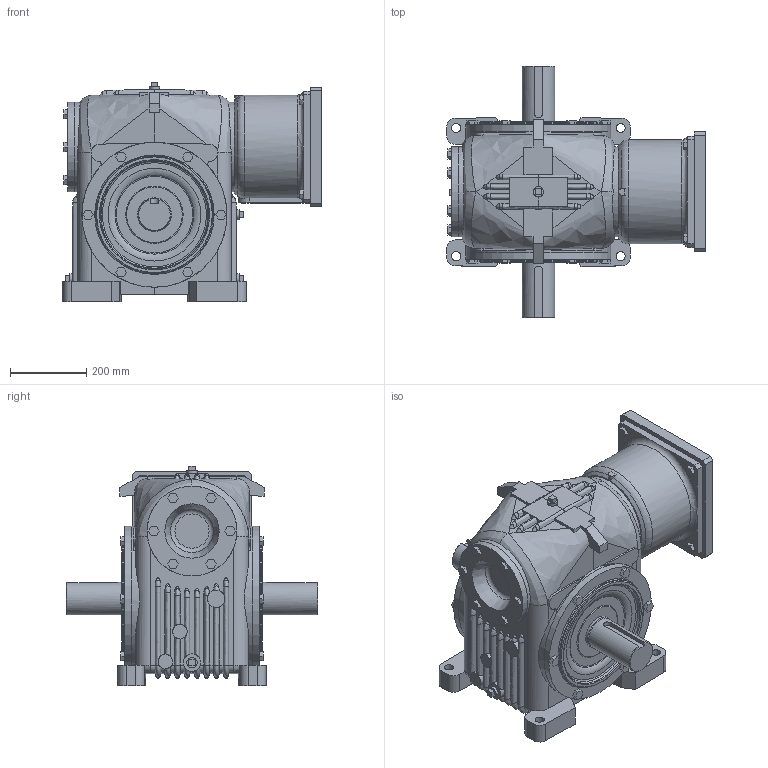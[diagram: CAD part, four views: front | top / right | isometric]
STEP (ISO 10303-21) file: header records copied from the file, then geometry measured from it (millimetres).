
FILE_DESCRIPTION(/* description */ ('Unknown'),/* implementation_level */ '2;1');
FILE_NAME(/* name */ 'O70CB-3-D01SBD-',/* time_stamp */ '2024-11-21T15:59:24-05:00',/* author */ ('Unknown'),/* organization */ ('Unknown'),/* preprocessor_version */ 'ST-DEVELOPER v19.4',/* originating_system */ 'Solid Edge',/* authorisation */ 'Unknown');
FILE_SCHEMA (('AUTOMOTIVE_DESIGN {1 0 10303 214 3 1 1}'));
Length unit declared in the file: millimetre
Products named in the file (7): O70CB-3-D01SBD-; 70-1-CP; 70-OUTS; 70-WCAP; 70-SM20-4-CP; MP5D-01-CP; KM600-S-48
Assembly tree (7 placements, depth 2):
  O70CB-3-D01SBD-
    70-1-CP
    70-OUTS  x2
    70-WCAP
    70-SM20-4-CP
    MP5D-01-CP
    KM600-S-48
Bounding box: 679.88 x 660.37 x 576.01 mm (x, y, z)
Volume: 64402848 mm3; surface area: 3253000.5 mm2
Topology: 7 solids, 8 shells, 719 faces, 1836 edges, 1212 vertices
Faces by surface type: plane 453, bspline 120, cylinder 118, torus 18, cone 10
Full cylindrical faces by diameter (mm): 0.254 x7, 13.835 x4, 15.875 x8, 23.812 x10, 26.924 x4, 38.1 x4, 44.45 x1, 45.72 x4, 47.625 x1, 85.712 x2, 88.9 x2, 94.5 x1, 106.68 x1, 122 x1, 154 x1, 171.45 x1, 171.475 x1, 171.958 x1, 171.983 x1, 177.8 x1, 177.825 x1, 178.308 x1, 236.22 x3, 250 x1, 254 x1, 269.875 x2, 308.665 x2, 381 x4
Entity records: 35519 total; most frequent: CARTESIAN_POINT 19527, ORIENTED_EDGE 3122, DIRECTION 2537, EDGE_CURVE 1561, VERTEX_POINT 1074, AXIS2_PLACEMENT_3D 864, EDGE_LOOP 819, FACE_BOUND 819
